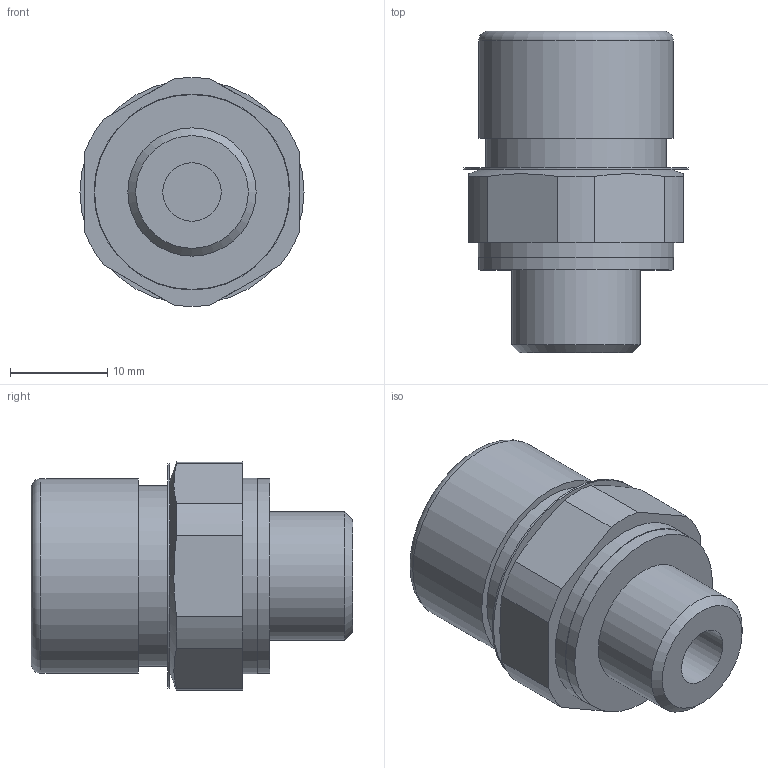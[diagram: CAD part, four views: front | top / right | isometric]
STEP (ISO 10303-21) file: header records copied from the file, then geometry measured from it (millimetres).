
FILE_DESCRIPTION( ( 'STEP AP203' ), '1' );
FILE_NAME( 'C:/Temp/Ganter_Step_05_03_2020/data/3_5/gn882/Breather filters GN 882-G1_4-MS-M.stp', '2020-03-12T13:42:40', ( 'License CC BY-ND 4.0' ), ( 'CADENAS' ), ' ', 'PARTsolutions', ' ' );
FILE_SCHEMA( ( 'CONFIG_CONTROL_DESIGN' ) );
Length unit declared in the file: millimetre
Products named in the file (1): _Breather filters GN 882-G1/4-MS-M
Bounding box: 23 x 33 x 23.46 mm (x, y, z)
Volume: 8967.2 mm3; surface area: 3294.8 mm2
Topology: 1 solids, 1 shells, 33 faces, 69 edges, 45 vertices
Faces by surface type: plane 15, cylinder 14, cone 3, torus 1
Full cylindrical faces by diameter (mm): 6 x1, 13.157 x1, 18.5 x1, 19 x1, 20 x2, 20.1 x1, 23 x1
Entity records: 870 total; most frequent: CARTESIAN_POINT 158, DIRECTION 148, ORIENTED_EDGE 110, AXIS2_PLACEMENT_3D 65, EDGE_CURVE 55, EDGE_LOOP 52, VERTEX_POINT 43, FACE_OUTER_BOUND 42
